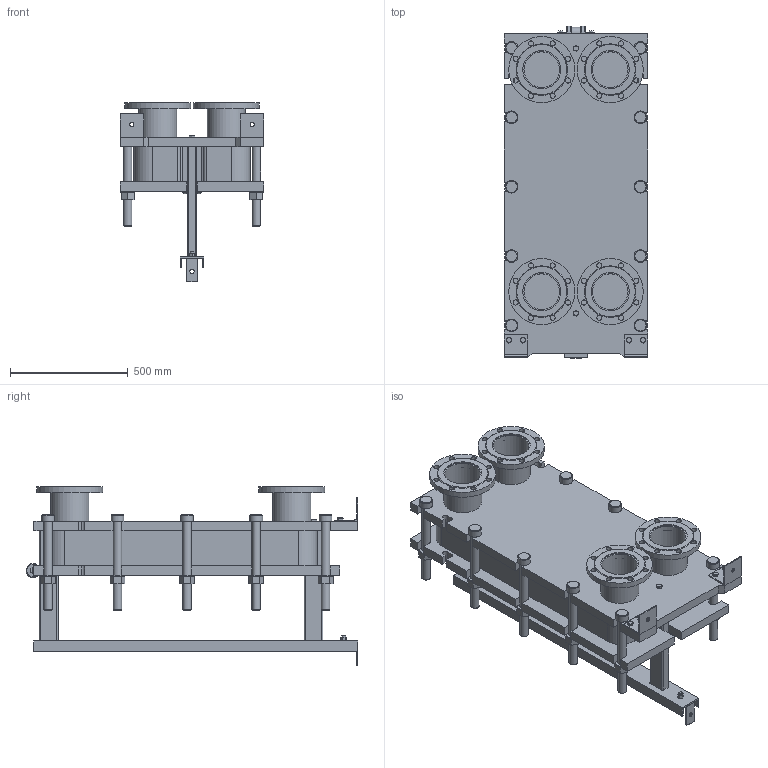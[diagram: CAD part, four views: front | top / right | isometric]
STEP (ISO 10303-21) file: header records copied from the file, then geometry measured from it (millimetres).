
FILE_DESCRIPTION(/* description */ (''),/* implementation_level */ '2;1');
FILE_NAME(/* name */ 'C:\Users\zhuro\Desktop\ENCO\TO\ЭН-041\ЭН-0,5-041-43-1.stp',/* time_stamp */ '2022-06-06T10:52:13+03:00',/* author */ ('zhuro'),/* organization */ (''),/* preprocessor_version */ 'ST-DEVELOPER v18.1',/* originating_system */ 'Autodesk Inventor 2022',/* authorisation */ '');
FILE_SCHEMA (('AUTOMOTIVE_DESIGN { 1 0 10303 214 3 1 1 }'));
Length unit declared in the file: millimetre
Products named in the file (1): ЭН-0,5-041-43-1
Bounding box: 610 x 1406.5 x 762.5 mm (x, y, z)
Volume: 159905186.4 mm3; surface area: 7767707.9 mm2
Topology: 52 solids, 52 shells, 711 faces, 1696 edges, 1094 vertices
Faces by surface type: plane 487, cylinder 177, cone 41, torus 6
Full cylindrical faces by diameter (mm): 8 x4, 10 x2, 16 x8, 18 x3, 22 x32, 36 x24, 50 x1, 54 x10, 60 x12, 151 x4, 161 x8, 280 x4
Entity records: 22667 total; most frequent: CARTESIAN_POINT 5230, DIRECTION 3644, ORIENTED_EDGE 3392, EDGE_CURVE 1696, AXIS2_PLACEMENT_3D 1272, LINE 1100, VECTOR 1100, VERTEX_POINT 1094
